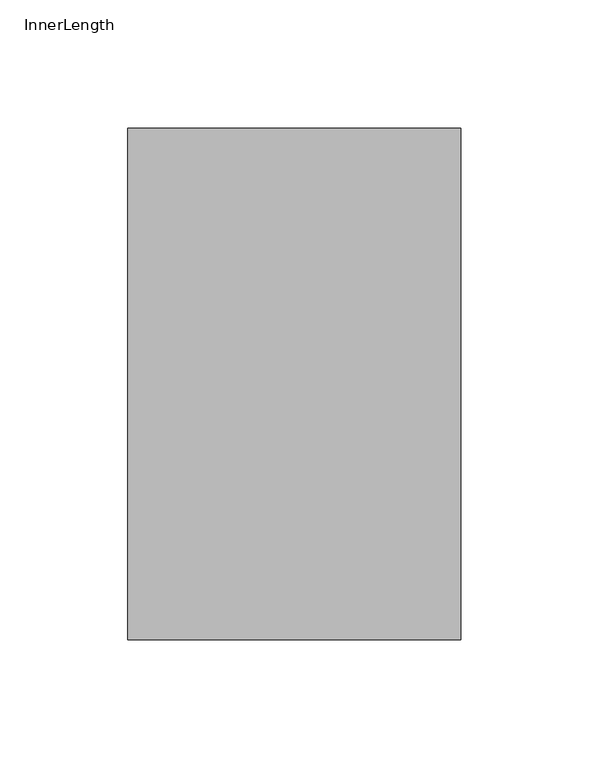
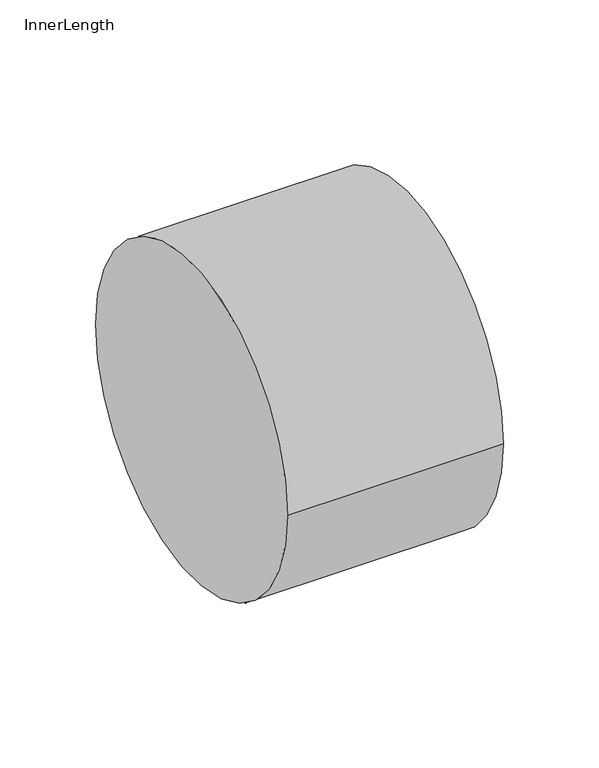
"""IFC4 building model written with IfcOpenShell, lengths in millimetres: pipe fitting geometry, CADS_Jeremias_InnerLength : InnerLength."""

from ifc_helpers import new_model, si_unit, point, frame, origin, origin_2d, place, context, project, spatial, circle_curve, trimmed, segment, composite_curve, outline, extrude, source, transform, mapped, element, save


def innerlength_c7eef2e4(model_context):
    return source(origin(), model_context, "Body", "SweptSolid", [
        extrude(outline(composite_curve([segment(trimmed(circle_curve(origin_2d(), 100.0), [point((-100.0, 0.0))], [point((100.0, 0.0))], False, "CARTESIAN"), True, "CONTINUOUS"), segment(trimmed(circle_curve(origin_2d(), 100.0), [point((100.0, 0.0))], [point((-100.0, 0.0))], False, "CARTESIAN"), True, "CONTINUOUS")], self_intersect=False)), frame((0.0, 0.0, 0.0), z_axis=(1.0, 0.0, 0.0), x_axis=(0.0, 1.0, 0.0)), (0.0, 0.0, 1.0), 130.0),
    ])


if __name__ == "__main__":
    model = new_model("IFC4")
    model_context = context("Model", 3, world=origin())
    ifc_project = project(units=[si_unit("LENGTHUNIT", "METRE", prefix="MILLI")], contexts=[model_context])
    site = spatial("IfcSite", under=ifc_project)
    building = spatial("IfcBuilding", under=site)
    placement = place(None, origin())
    innerlength_shape = innerlength_c7eef2e4(model_context)
    element("IfcPipeFitting", 1, ObjectType="CADS_Jeremias_InnerLength : InnerLength", at=placement, inside=building, context=model_context, shape_type="MappedRepresentation", body=[
        mapped(innerlength_shape, transform((0.0, 0.0, 0.0), x_axis=(1.0, 0.0, 0.0), y_axis=(0.0, 1.0, 0.0), z_axis=(0.0, 0.0, 1.0))),
    ])
    save(model, "model.ifc")
